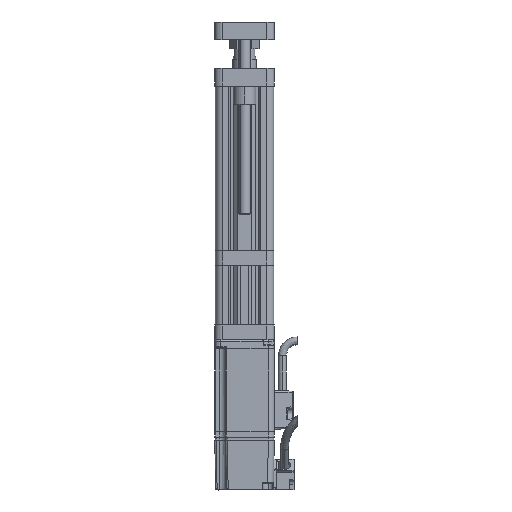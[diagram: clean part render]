
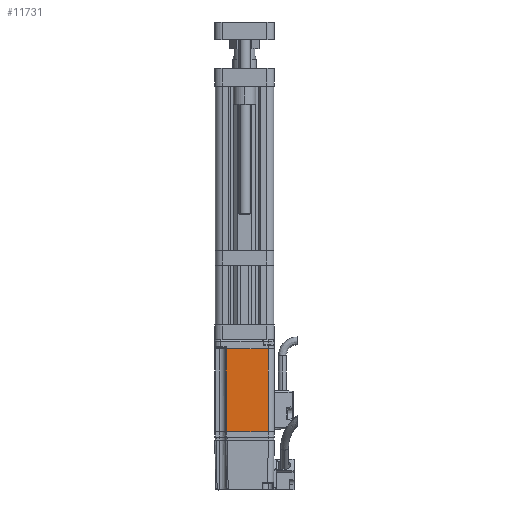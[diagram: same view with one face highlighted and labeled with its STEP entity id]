
A CAD part, left-side view. The second image highlights one B-rep face of the part: STEP entity #11731.
In plain terms, the highlighted planar face has unit normal (-1, 0, 0) as drawn and (0, 0, -1) by its records, which use the part's own axes.
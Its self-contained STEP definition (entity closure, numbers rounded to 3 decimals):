
#1235 = CARTESIAN_POINT ( 'NONE',  ( 16., 25.2, -20. ) ) ;
#1990 = VERTEX_POINT ( 'NONE', #14455 ) ;
#2608 = DIRECTION ( 'NONE',  ( 0., 1., 0. ) ) ;
#3266 = CARTESIAN_POINT ( 'NONE',  ( 0., -30.2, -20. ) ) ;
#3348 = ORIENTED_EDGE ( 'NONE', *, *, #30036, .F. ) ;
#3470 = LINE ( 'NONE', #20343, #26542 ) ;
#4009 = B_SPLINE_CURVE_WITH_KNOTS ( 'NONE', 3,
 ( #28920, #19007, #16715, #21656 ),
 .UNSPECIFIED., .F., .F.,
 ( 4, 4 ),
 ( 0., 1. ),
 .UNSPECIFIED. ) ;
#4301 = ORIENTED_EDGE ( 'NONE', *, *, #31043, .T. ) ;
#5876 = DIRECTION ( 'NONE',  ( -1., 0., 0. ) ) ;
#6347 = DIRECTION ( 'NONE',  ( 1., 0., 0. ) ) ;
#8403 = VECTOR ( 'NONE', #5876, 1000. ) ;
#8665 = PLANE ( 'NONE',  #21312 ) ;
#10099 = FACE_OUTER_BOUND ( 'NONE', #30862, .T. ) ;
#10416 = VECTOR ( 'NONE', #2608, 1000. ) ;
#11543 = LINE ( 'NONE', #3266, #8403 ) ;
#11731 = ADVANCED_FACE ( 'NONE', ( #10099 ), #8665, .F. ) ;
#14455 = CARTESIAN_POINT ( 'NONE',  ( 16., -30.2, -20. ) ) ;
#16715 = CARTESIAN_POINT ( 'NONE',  ( -12.095, -11.733, -20. ) ) ;
#16849 = EDGE_CURVE ( 'NONE', #25116, #27699, #3470, .T. ) ;
#18607 = DIRECTION ( 'NONE',  ( 0., 0., 1. ) ) ;
#19007 = CARTESIAN_POINT ( 'NONE',  ( -12.097, 6.733, -20. ) ) ;
#20343 = CARTESIAN_POINT ( 'NONE',  ( 1.95, 25.2, -20. ) ) ;
#21312 = AXIS2_PLACEMENT_3D ( 'NONE', #23431, #18607, #6347 ) ;
#21656 = CARTESIAN_POINT ( 'NONE',  ( -12.093, -30.2, -20. ) ) ;
#22852 = DIRECTION ( 'NONE',  ( -1., 0., 0. ) ) ;
#23288 = VERTEX_POINT ( 'NONE', #24842 ) ;
#23431 = CARTESIAN_POINT ( 'NONE',  ( 1.95, -2.5, -20. ) ) ;
#23716 = LINE ( 'NONE', #29767, #10416 ) ;
#24842 = CARTESIAN_POINT ( 'NONE',  ( -12.093, -30.2, -20. ) ) ;
#25116 = VERTEX_POINT ( 'NONE', #1235 ) ;
#26542 = VECTOR ( 'NONE', #22852, 1000. ) ;
#27699 = VERTEX_POINT ( 'NONE', #31870 ) ;
#27877 = ORIENTED_EDGE ( 'NONE', *, *, #16849, .F. ) ;
#28920 = CARTESIAN_POINT ( 'NONE',  ( -12.099, 25.2, -20. ) ) ;
#29296 = ORIENTED_EDGE ( 'NONE', *, *, #29347, .F. ) ;
#29347 = EDGE_CURVE ( 'NONE', #27699, #23288, #4009, .T. ) ;
#29767 = CARTESIAN_POINT ( 'NONE',  ( 16., 26.308, -20. ) ) ;
#30036 = EDGE_CURVE ( 'NONE', #1990, #25116, #23716, .T. ) ;
#30862 = EDGE_LOOP ( 'NONE', ( #27877, #3348, #4301, #29296 ) ) ;
#31043 = EDGE_CURVE ( 'NONE', #1990, #23288, #11543, .T. ) ;
#31870 = CARTESIAN_POINT ( 'NONE',  ( -12.099, 25.2, -20. ) ) ;
